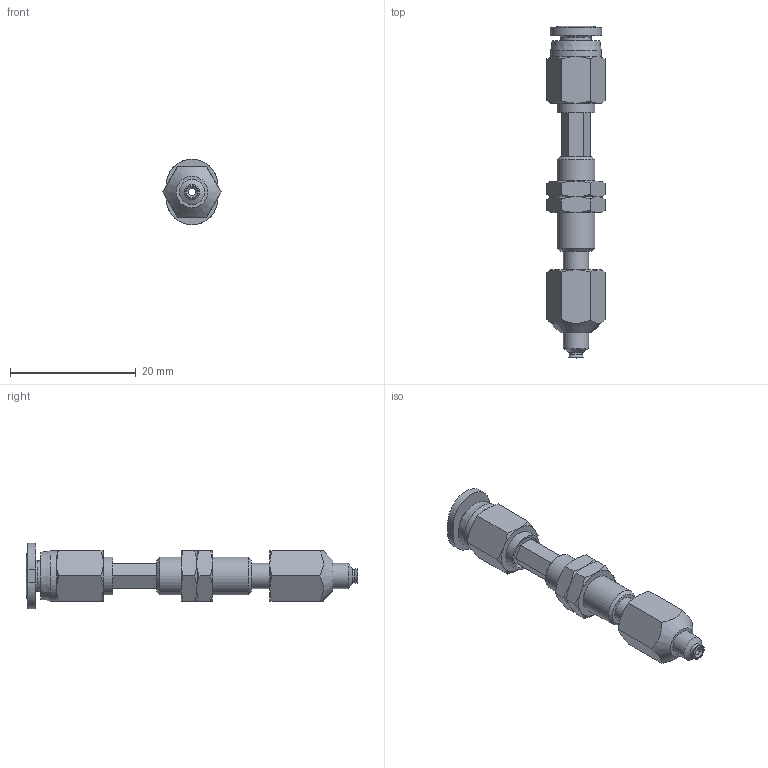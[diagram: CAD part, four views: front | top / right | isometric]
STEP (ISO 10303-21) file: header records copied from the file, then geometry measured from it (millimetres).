
FILE_DESCRIPTION(('STEP AP203'),'1');
FILE_NAME('-O.stp','2025-08-27T05:24:31',(' '),(' '),'Spatial InterOp 3D',' ',' ');
FILE_SCHEMA(('CONFIG_CONTROL_DESIGN'));
Length unit declared in the file: millimetre
Products named in the file (7): BNABPFTS-2A-3-※-O; ADAPTER; NAPFTS-2A-3-MBODY; Nut-2A-3-s; NAPFTS-2A-3-FBODY; BPFG-2A-※; PC-C_04-M3
Assembly tree (7 placements, depth 2):
  BNABPFTS-2A-3-※-O
    ADAPTER
    NAPFTS-2A-3-MBODY
    Nut-2A-3-s  x2
    NAPFTS-2A-3-FBODY
    BPFG-2A-※
    PC-C_04-M3
Bounding box: 9.24 x 52.77 x 10.4 mm (x, y, z)
Volume: 1222.4 mm3; surface area: 2546.5 mm2
Topology: 6 solids, 8 shells, 161 faces, 332 edges, 198 vertices
Faces by surface type: plane 63, cone 58, cylinder 23, torus 9, bspline 5, revolution 3
Full cylindrical faces by diameter (mm): 1.2 x3, 2 x2, 2.459 x1, 2.5 x2, 3 x3, 4 x3, 4.9 x1, 5.188 x2, 6 x2, 6.1 x1, 8 x1
Entity records: 4061 total; most frequent: CARTESIAN_POINT 1125, DIRECTION 543, ORIENTED_EDGE 456, AXIS2_PLACEMENT_3D 243, EDGE_CURVE 229, EDGE_LOOP 206, VERTEX_POINT 161, FACE_OUTER_BOUND 108
